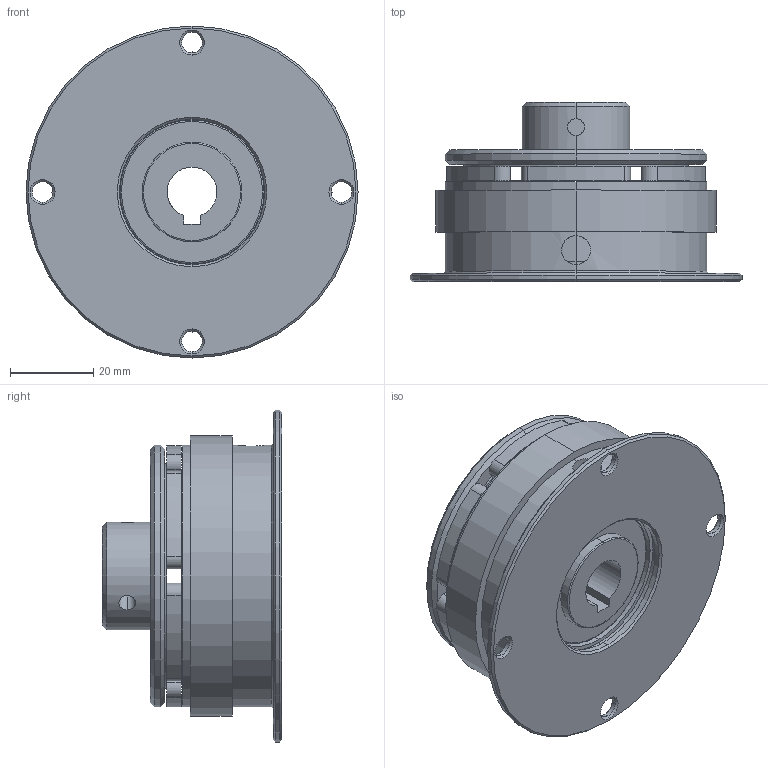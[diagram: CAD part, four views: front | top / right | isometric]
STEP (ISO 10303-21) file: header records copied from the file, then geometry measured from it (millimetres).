
FILE_DESCRIPTION (( 'STEP AP214' ), '1' );
FILE_NAME ('C-S50-F02-12.STEP', '2017-08-16T06:23:52', ( 'tec4' ), ( '' ), 'SwSTEP 2.0', 'SolidWorks 2015', '' );
FILE_SCHEMA (( 'AUTOMOTIVE_DESIGN' ));
Length unit declared in the file: millimetre
Products named in the file (1): C-S50-F02-12
Bounding box: 80 x 43.2 x 80 mm (x, y, z)
Surface area: 34939.6 mm2 (no closed solid volume)
Topology: 0 solids, 9 shells, 138 faces, 446 edges, 316 vertices
Faces by surface type: cylinder 73, plane 31, cone 30, torus 4
Entity records: 7008 total; most frequent: CARTESIAN_POINT 1267, DIRECTION 972, ORIENTED_EDGE 763, EDGE_CURVE 446, AXIS2_PLACEMENT_3D 405, VERTEX_POINT 316, CIRCLE 266, EDGE_LOOP 201
